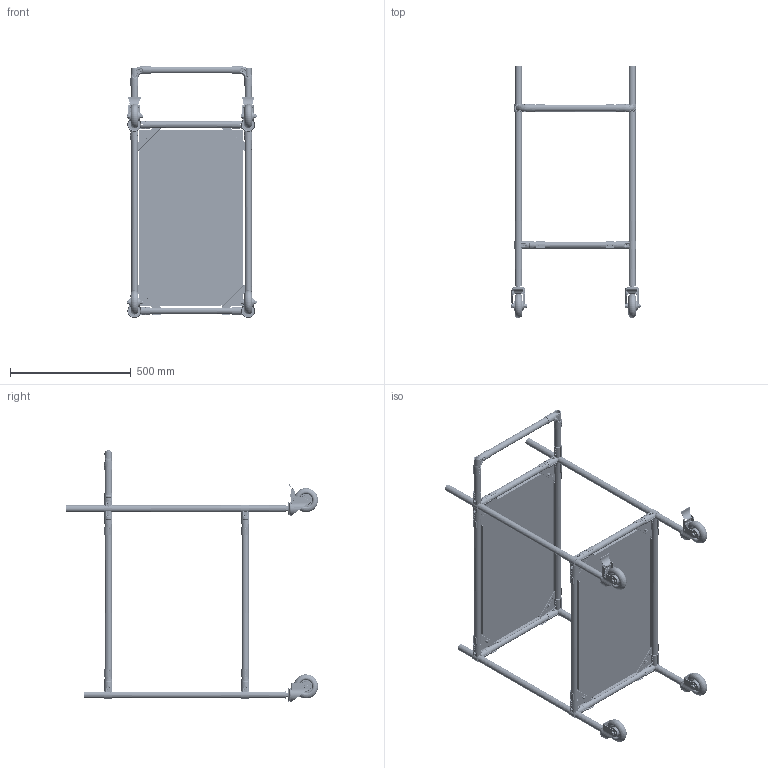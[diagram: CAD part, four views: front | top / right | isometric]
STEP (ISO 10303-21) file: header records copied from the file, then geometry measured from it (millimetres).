
FILE_DESCRIPTION (( 'STEP AP214' ), '1' );
FILE_NAME ('RSI-MST-800x500x900-2.STEP', '2026-01-26T11:24:55', ( '' ), ( '' ), 'SwSTEP 2.0', 'SolidWorks 2022', '' );
FILE_SCHEMA (( 'AUTOMOTIVE_DESIGN' ));
Length unit declared in the file: millimetre
Products named in the file (29): F-180-1; D-3; Шайба DIN125_6; D-2; PR-28X3-A_L=700 мм; df-3b_Для сборки; PR-28X3-A_L=150 мм; FHJ-404; F-170; f-110-x.stp; PR-28X3-A_L=750 мм; D-17^df-17b; df-2b_Кронштейн соединительный DF2B; Шайба DIN7980_D8 DIN 7980; PR-28X3-A_Труба алюминиевая d28 мм; Гайка DIN934_M6; F-170^df-17b; Винт полусфера ISO 7380_М6х16; D-4; fh-1010b; RSI-MST-800x500x900-2; Polka RSI-MST-800x500x900-2; PR-28X3-A_L=200 мм; FHJ-405; df-17b_Кронштейн соединительный DF17B; F-180-1^df-17b; PR-28X3-A_L=400 мм; PR-28X3-A_L=350 мм; Зеркально отразитьfh-1010b
Assembly tree (105 placements, depth 3):
  RSI-MST-800x500x900-2
    PR-28X3-A_L=700 мм  x4
    df-2b_Кронштейн соединительный DF2B  x6
      D-2
      D-3
      F-180-1
      F-170
      PR-28X3-A_Труба алюминиевая d28 мм
      PR-28X3-A_L=200 мм
    PR-28X3-A_L=750 мм  x4
    df-3b_Для сборки  x2
      D-4
      D-2
      F-180-1
      F-170
      PR-28X3-A_L=200 мм
      PR-28X3-A_L=350 мм
    PR-28X3-A_L=400 мм  x5
    PR-28X3-A_L=150 мм  x2
    df-17b_Кронштейн соединительный DF17B  x2
      D-17^df-17b
      F-180-1^df-17b
      F-170^df-17b
      PR-28X3-A_L=400 мм
    f-110-x.stp  x4
    FHJ-405  x2
    FHJ-404  x2
    fh-1010b  x4
    Зеркально отразитьfh-1010b  x4
    Polka RSI-MST-800x500x900-2  x2
    Винт полусфера ISO 7380_М6х16  x8
    Шайба DIN125_6  x8
    Шайба DIN7980_D8 DIN 7980  x8
    Гайка DIN934_M6  x8
Bounding box: 535 x 1043 x 1042.5 mm (x, y, z)
Volume: 6778886.9 mm3; surface area: 4680563.3 mm2
Topology: 163 solids, 163 shells, 8114 faces, 20634 edges, 13172 vertices
Faces by surface type: cylinder 3384, plane 2252, bspline 1112, cone 658, torus 548, sphere 160
Entity records: 103538 total; most frequent: CARTESIAN_POINT 59591, ORIENTED_EDGE 8768, DIRECTION 7457, EDGE_CURVE 4384, AXIS2_PLACEMENT_3D 2954, VERTEX_POINT 2790, EDGE_LOOP 1898, ADVANCED_FACE 1736
